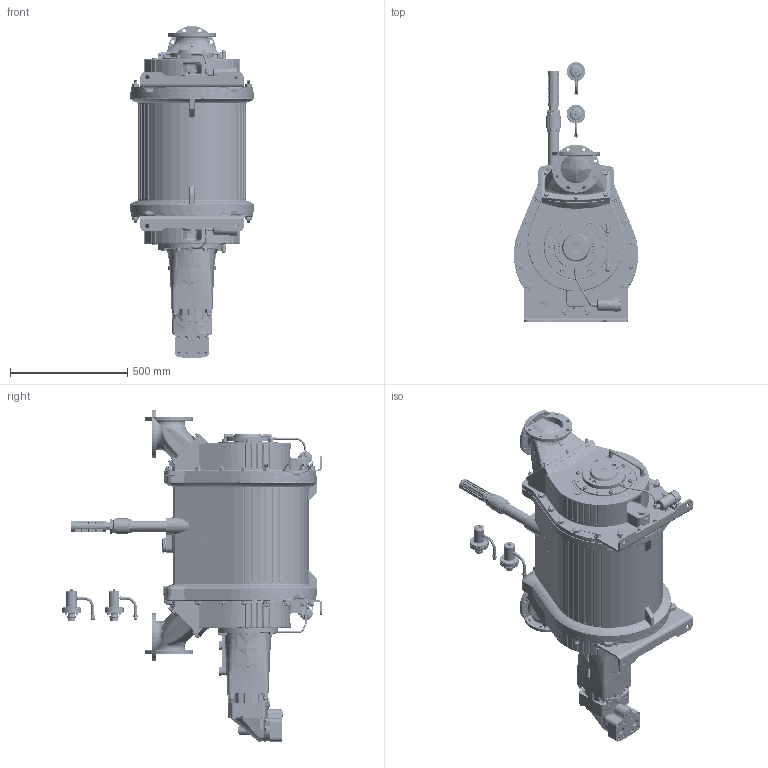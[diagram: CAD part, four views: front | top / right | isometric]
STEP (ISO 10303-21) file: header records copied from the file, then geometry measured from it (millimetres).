
FILE_DESCRIPTION(/* description */ (''),/* implementation_level */ '2;1');
FILE_NAME(/* name */ '1700172.stp',/* time_stamp */ '2026-04-24T10:44:51+02:00',/* author */ ('JJ'),/* organization */ (''),/* preprocessor_version */ 'ST-DEVELOPER v20',/* originating_system */ 'Autodesk Inventor 2025',/* authorisation */ '');
FILE_SCHEMA (('AUTOMOTIVE_DESIGN { 1 0 10303 214 3 1 1 }'));
Products named in the file (69): 1700172; 1659021; 1659049; 910100012; 910200009; 1634823; 1634808; 922000270; 910100022; 910200021; 944600276; 1634824; 1634809; 922000269; 1659046; 915000217; 910300487; 910100191; 944600240; 915000232; 915000225; 915000225-part1; 915000225-part2; 915000217_1; 1634773; 915000215; 1659095; 915000050; 944600355; 944600356; 925000590; 925000587; 1659069; 1659017; 1634666; 1634667; 1634668; 1634130; 1634131; 1634670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
Assembly tree (165 placements, depth 4):
  1700172
    1659017  x4
    1659069  x4
    1659021  x2
    910100022  x16
    910200021  x16
    910100012  x12
    910200009  x12
    1634823  x2
      1634808
      922000270
    1634826  x2
      1634811
      922000266
    1659049  x2
    944600276  x4
    1659046  x2
    1634824  x2
      1634809
      922000269
    915000050  x2
    910300487  x2
    910100191  x2
    944600240  x2
    915000232  x2
    915000225  x2
      915000225-part1
      915000225-part2
    1634773  x2
    915000215  x2
    915000217
    915000217_1
    1659095
    944600355
    944600356
    925000590
    925000587
    1634666  x2
      1634667
      1634668
      1634130
      1634131
      1634670
      1634134
      910200105
      910100125
      910300428
      921000047
      922100045
      922100339
      1634669
      925000651
      910300012
    925000862  x2
    927000134-TM2500  x2
    1659081_Simplify_body
    1636087
      1636088
      922000307
    1659106
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Bounding box: 529.22 x 1107.31 x 1414.9 mm (x, y, z)
Volume: 180395238.4 mm3; surface area: 6949740.5 mm2
Topology: 192 solids, 196 shells, 11561 faces, 29948 edges, 19310 vertices
Faces by surface type: plane 4313, bspline 3158, cylinder 2561, cone 933, torus 410, sphere 186
Full cylindrical faces by diameter (mm): 1.5 x16, 3.2 x4, 3.3 x4, 3.5 x4, 4 x4, 4.134 x4, 4.917 x2, 4.92 x10, 5 x2, 5.3 x2, 6 x46, 6.1 x2, 6.4 x2, 6.5 x8, 8 x40, 8.376 x14, 8.4 x2, 8.5 x3, 8.57 x2, 9.2 x2, 9.7 x2, 9.8 x4, 10 x189, 10.106 x9, 10.5 x12, 11 x66, 11.18 x2, 11.3 x4, 11.445 x8, 11.835 x8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
Entity records: 500840 total; most frequent: CARTESIAN_POINT 335471, ORIENTED_EDGE 36190, DIRECTION 27671, EDGE_CURVE 18096, VERTEX_POINT 11653, AXIS2_PLACEMENT_3D 10063, EDGE_LOOP 7963, LINE 7545
